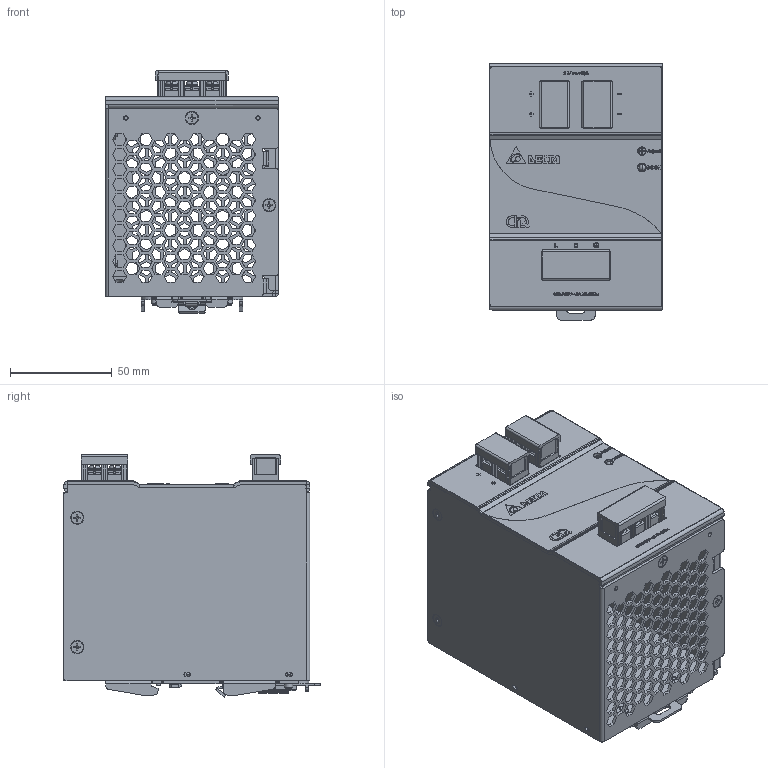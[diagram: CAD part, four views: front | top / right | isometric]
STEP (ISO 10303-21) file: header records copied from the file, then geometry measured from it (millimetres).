
FILE_DESCRIPTION((''),'2;1');
FILE_NAME('DRP024V240W1AA_ASM','2012-04-20T',('Manop.Pr'),(''),'PRO/ENGINEER BY PARAMETRIC TECHNOLOGY CORPORATION, 2010180','PRO/ENGINEER BY PARAMETRIC TECHNOLOGY CORPORATION, 2010180','');
FILE_SCHEMA(('CONFIG_CONTROL_DESIGN','SHAPE_APPEARANCE_LAYERS_GROUPS'));
Products named in the file (29): 330242090909; 330242090909_A_STUD1; 330242090909_A_STUD2; 330242090909_ASM; 330242100101; 330242110506; 326303710101; 326806930405; 3202315200; 2968046302_DCT-463; 3073039846_A_BODY; 3073039846_A_COVER; 3073039846_A_TERMINAL; 3073039846_A_SCREW; 3073039846_ASM; 3073049746_A_BODY; 3073049746_A_COVER; 3073049746_A_TERMINAL; 3073049746_A_SCREW; 3073049746_ASM; EE_LED; EE_VR; ASSY_PWB_DCT-463_ASM; 3461303000; 3460088100; 3462026200; ASSY_LATCH_50X100_ASM; 3100000600; DRP024V240W1AA_ASM
Assembly tree (47 placements, depth 4):
  DRP024V240W1AA_ASM
    330242090909_ASM
      330242090909
      330242090909_A_STUD1  x2
      330242090909_A_STUD2  x3
    330242100101
    330242110506
    326303710101
    326806930405
    3202315200
    ASSY_PWB_DCT-463_ASM
      2968046302_DCT-463
      3073039846_ASM
        3073039846_A_BODY
        3073039846_A_COVER
        3073039846_A_TERMINAL  x3
        3073039846_A_SCREW  x3
      3073049746_ASM  x2
        3073049746_A_BODY
        3073049746_A_COVER
        3073049746_A_TERMINAL
        3073049746_A_SCREW
      EE_LED
      EE_VR
    ASSY_LATCH_50X100_ASM
      3461303000
      3460088100
      3462026200
    3100000600  x10
Bounding box: 85.1 x 126 x 119.44 mm (x, y, z)
Volume: 115963.1 mm3; surface area: 194475.4 mm2
Topology: 53 solids, 53 shells, 6052 faces, 16027 edges, 10202 vertices
Faces by surface type: plane 4587, cylinder 661, extrusion 432, bspline 170, cone 162, torus 34, sphere 6
Entity records: 187819 total; most frequent: CARTESIAN_POINT 35597, ORIENTED_EDGE 24888, DIRECTION 21472, EDGE_CURVE 12444, PRESENTATION_STYLE_ASSIGNMENT 11695, STYLED_ITEM 11599, CURVE_STYLE 11574, VECTOR 10752
